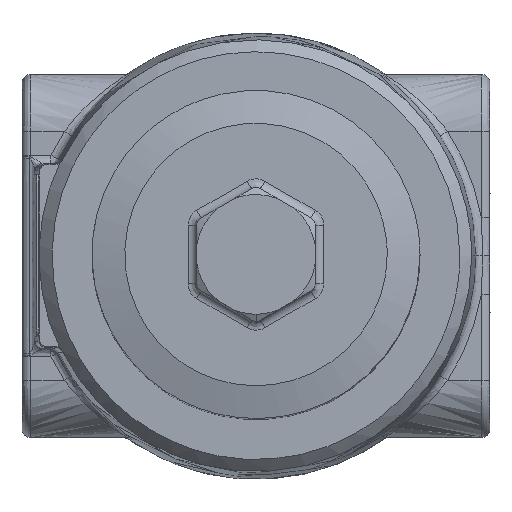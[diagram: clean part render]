
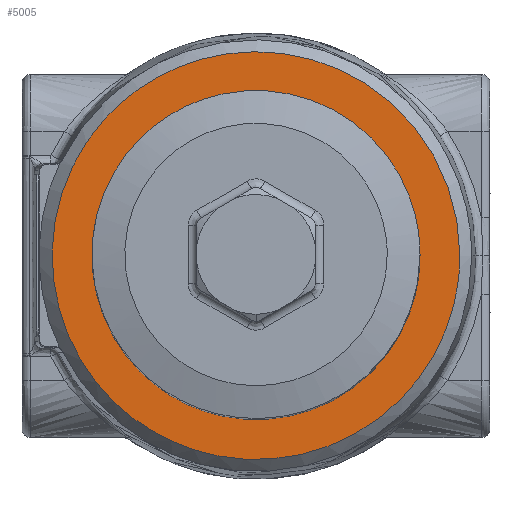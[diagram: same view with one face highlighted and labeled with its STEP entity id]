
A CAD part, top view. The second image highlights one B-rep face of the part: STEP entity #5005.
In plain terms, the highlighted free-form (B-spline) face has degree [1, 1] with [2, 2] control points.
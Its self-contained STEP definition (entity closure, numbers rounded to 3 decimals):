
#4947=CARTESIAN_POINT('V449',(29.867,-3.957,
   66.0));
#4948=VERTEX_POINT('V449',#4947);
#4949=CARTESIAN_POINT('E779',(29.867,-3.957,
   66.0));
#4950=CARTESIAN_POINT('E779',(29.867,60.995,
   66.0));
#4951=CARTESIAN_POINT('E779',(-26.383,28.519,
   66.0));
#4952=CARTESIAN_POINT('E779',(-82.633,-3.957,
   66.0));
#4953=CARTESIAN_POINT('E779',(-26.383,
   -36.433,66.0));
#4954=CARTESIAN_POINT('E779',(29.867,-68.909,
   66.0));
#4955=CARTESIAN_POINT('E779',(29.867,-3.957,
   66.0));
#4963=(BOUNDED_CURVE()B_SPLINE_CURVE(2,(#4949,#4950,#4951,#4952,
   #4953,#4954,#4955),.CIRCULAR_ARC.,.T.,.U.)
   B_SPLINE_CURVE_WITH_KNOTS((3,2,2,3),(0.0,0.333,
   0.667,1.0),.UNSPECIFIED.)CURVE()
   GEOMETRIC_REPRESENTATION_ITEM()RATIONAL_B_SPLINE_CURVE((1.0,
   0.5,1.0,0.5,1.0,0.5,1.0)
   )REPRESENTATION_ITEM('E779'));
#4964=EDGE_CURVE('E779',#4948,#4948,#4963,.T.);
#4976=CARTESIAN_POINT('F326',(-58.908,47.318,
   66.0));
#4977=CARTESIAN_POINT('F326',(43.642,47.318,
   66.0));
#4978=CARTESIAN_POINT('F326',(-58.908,
   -55.232,66.0));
#4979=CARTESIAN_POINT('F326',(43.642,-55.232,
   66.0));
#4980=QUASI_UNIFORM_SURFACE('F326',1,1,((#4976,#4978),(#4977,
   #4979)),.PLANE_SURF.,.F.,.F.,.U.);
#4981=CARTESIAN_POINT('V67',(38.98,-3.957,
   66.0));
#4982=VERTEX_POINT('V67',#4981);
#4983=CARTESIAN_POINT('E77',(38.98,-3.957,
   66.0));
#4984=CARTESIAN_POINT('E77',(38.98,76.78,
   66.0));
#4985=CARTESIAN_POINT('E77',(-30.94,36.411,
   66.0));
#4986=CARTESIAN_POINT('E77',(-100.86,-3.957,
   66.0));
#4987=CARTESIAN_POINT('E77',(-30.94,-44.325,
   66.0));
#4988=CARTESIAN_POINT('E77',(38.98,-84.694,
   66.0));
#4989=CARTESIAN_POINT('E77',(38.98,-3.957,
   66.0));
#4997=(BOUNDED_CURVE()B_SPLINE_CURVE(2,(#4983,#4984,#4985,#4986,
   #4987,#4988,#4989),.CIRCULAR_ARC.,.T.,.U.)
   B_SPLINE_CURVE_WITH_KNOTS((3,2,2,3),(0.0,39.284,
   78.569,117.853),.UNSPECIFIED.)CURVE()
   GEOMETRIC_REPRESENTATION_ITEM()RATIONAL_B_SPLINE_CURVE((1.0,
   0.5,1.0,0.5,1.0,0.5,1.0)
   )REPRESENTATION_ITEM('E77'));
#4998=EDGE_CURVE('E77',#4982,#4982,#4997,.T.);
#4999=ORIENTED_EDGE('E77',*,*,#4998,.T.);
#5000=EDGE_LOOP('F326',(#4999));
#5001=FACE_OUTER_BOUND('F326',#5000,.T.);
#5002=ORIENTED_EDGE('E779',*,*,#4964,.F.);
#5003=EDGE_LOOP('F326',(#5002));
#5004=FACE_BOUND('F326',#5003,.T.);
#5005=ADVANCED_FACE('F326',(#5001,#5004),#4980,.F.);
